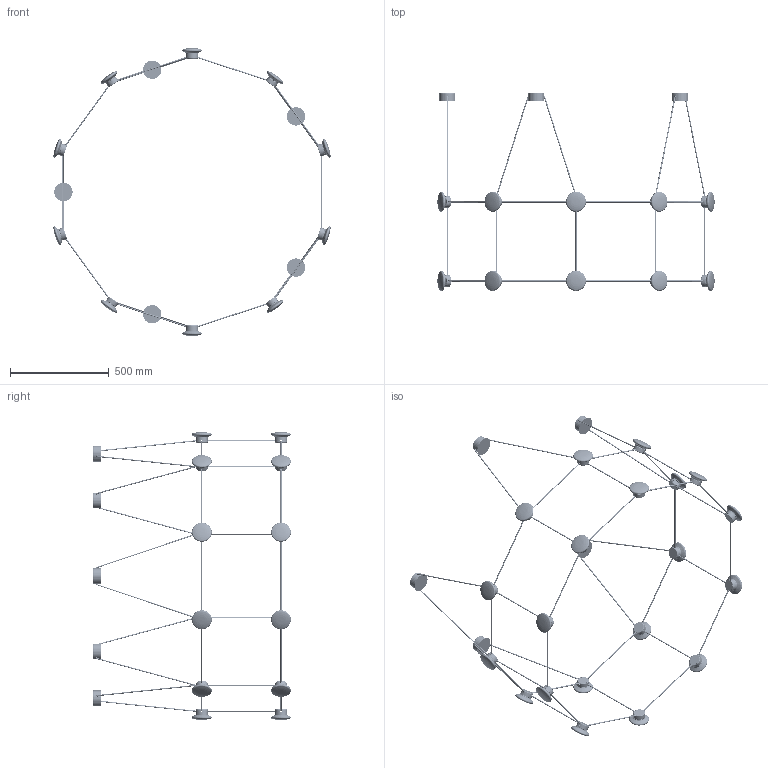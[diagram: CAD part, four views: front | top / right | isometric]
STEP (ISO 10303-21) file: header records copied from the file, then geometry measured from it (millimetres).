
FILE_DESCRIPTION (( 'STEP AP203' ), '1' );
FILE_NAME ('FBN08.LS01.AF01.R00 - Render.STEP', '2026-05-07T15:06:17', ( '' ), ( '' ), 'SwSTEP 2.0', 'SolidWorks 2025', '' );
FILE_SCHEMA (( 'CONFIG_CONTROL_DESIGN' ));
Length unit declared in the file: millimetre
Products named in the file (20): FBN08.LS01.C010.R00; Nipplo A_NIPPLO M10x1 H.7 NERO; FBN08.LS01.C015.R00; FBN08.LS01.AM04.R00; FBN08.LS01.C014.R00_Default<A macchina>; FBN08.LS01.AM05.R00; FBN08.LS01.C004.R00; FBN08.LS01.AM02.R00; FBN08.LS01.C009.R00_Default<A macchina>; serrated lock washer 1_1_din_DIN 6798-J4.3; FBN08.LS01.C001.R00; FBN08.LS01.C012.R00; FBN08.LS01.AM03.R00; FBN08.LS01.C091.R00; FBN08.LS01.C016.R00; FBN08.LS01.AF01.R00 - Render; FBN08.LS01.C090.R00; Modulo Led Star CV EA CL196-DB; FBN08.LS01.AM06.R00; FBN08.LS01.AM01.R00
Assembly tree (83 placements, depth 4):
  FBN08.LS01.AF01.R00 - Render
    FBN08.LS01.AM03.R00  x5
      serrated lock washer 1_1_din_DIN 6798-J4.3
      Nipplo A_NIPPLO M10x1 H.7 NERO
      FBN08.LS01.C014.R00_Default<A macchina>
      FBN08.LS01.C009.R00_Default<A macchina>
    FBN08.LS01.C090.R00  x10
    FBN08.LS01.AM02.R00  x10
      FBN08.LS01.C001.R00
      FBN08.LS01.AM01.R00
        FBN08.LS01.C004.R00
      FBN08.LS01.C012.R00
      Modulo Led Star CV EA CL196-DB
    FBN08.LS01.AM06.R00  x20
      FBN08.LS01.AM05.R00
        FBN08.LS01.C010.R00
        FBN08.LS01.C016.R00
    FBN08.LS01.AM04.R00  x10
      FBN08.LS01.C015.R00
      FBN08.LS01.AM01.R00
        FBN08.LS01.C004.R00
      FBN08.LS01.C012.R00
      Modulo Led Star CV EA CL196-DB
    FBN08.LS01.C091.R00  x10
Bounding box: 1400.66 x 998.98 x 1453.24 mm (x, y, z)
Volume: 2354616.1 mm3; surface area: 1898884.6 mm2
Topology: 185 solids, 185 shells, 6540 faces, 16380 edges, 10410 vertices
Faces by surface type: plane 2970, cylinder 2380, torus 450, cone 440, bspline 220, sphere 80
Entity records: 22241 total; most frequent: CARTESIAN_POINT 6194, DIRECTION 2689, ORIENTED_EDGE 2446, EDGE_CURVE 1223, AXIS2_PLACEMENT_3D 1035, VERTEX_POINT 790, VECTOR 619, LINE 619
